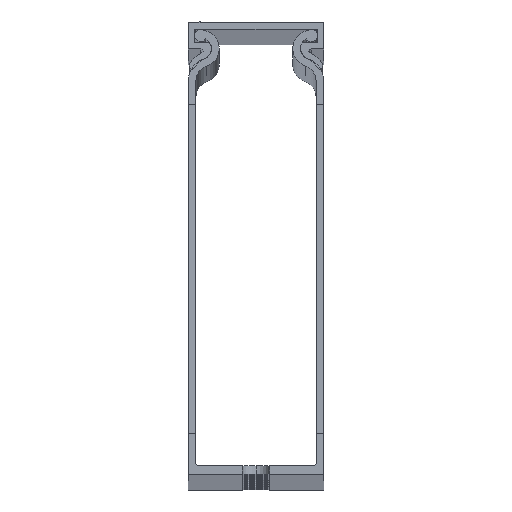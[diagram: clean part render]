
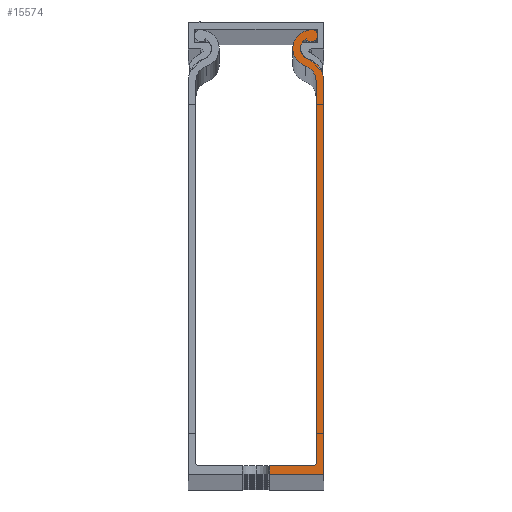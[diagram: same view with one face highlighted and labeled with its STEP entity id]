
A CAD part, top view. The second image highlights one B-rep face of the part: STEP entity #15574.
In plain terms, the highlighted planar face has unit normal (0, 0, 1).
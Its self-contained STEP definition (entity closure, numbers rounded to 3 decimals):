
#107 = DIRECTION ( 'NONE',  ( 1., 0., 0. ) ) ;
#1087 = VERTEX_POINT ( 'NONE', #20287 ) ;
#1310 = ORIENTED_EDGE ( 'NONE', *, *, #4172, .T. ) ;
#1311 = CARTESIAN_POINT ( 'NONE',  ( 2580.655, 1291.356, 2000. ) ) ;
#2649 = VERTEX_POINT ( 'NONE', #41002 ) ;
#3701 = CARTESIAN_POINT ( 'NONE',  ( 2581.207, 1199.456, 2000. ) ) ;
#4172 = EDGE_CURVE ( 'NONE', #21268, #44973, #48213, .T. ) ;
#4322 = DIRECTION ( 'NONE',  ( 1., 0., 0. ) ) ;
#4757 = ORIENTED_EDGE ( 'NONE', *, *, #45506, .F. ) ;
#5053 = DIRECTION ( 'NONE',  ( 1., 0., 0. ) ) ;
#5370 = CIRCLE ( 'NONE', #44691, 0.5 ) ;
#6463 = DIRECTION ( 'NONE',  ( -1., 0., 0. ) ) ;
#6609 = AXIS2_PLACEMENT_3D ( 'NONE', #39220, #27019, #47664 ) ;
#6674 = CIRCLE ( 'NONE', #24315, 5.1 ) ;
#6701 = CARTESIAN_POINT ( 'NONE',  ( 2568.407, 1197.056, 2000. ) ) ;
#7034 = EDGE_CURVE ( 'NONE', #10014, #1087, #25478, .T. ) ;
#7408 = VERTEX_POINT ( 'NONE', #26641 ) ;
#7893 = ORIENTED_EDGE ( 'NONE', *, *, #15798, .T. ) ;
#8924 = CARTESIAN_POINT ( 'NONE',  ( 2578.307, 1284.233, 2000. ) ) ;
#9567 = VECTOR ( 'NONE', #6463, 1000. ) ;
#9814 = CARTESIAN_POINT ( 'NONE',  ( 2579.372, 1287.462, 2000. ) ) ;
#10014 = VERTEX_POINT ( 'NONE', #12698 ) ;
#10086 = CARTESIAN_POINT ( 'NONE',  ( 2568.407, 1198.956, 2000. ) ) ;
#10142 = FACE_OUTER_BOUND ( 'NONE', #45619, .T. ) ;
#10391 = EDGE_CURVE ( 'NONE', #44973, #40023, #35701, .T. ) ;
#10923 = DIRECTION ( 'NONE',  ( 0., 1., 0. ) ) ;
#11049 = DIRECTION ( 'NONE',  ( 1., 0., 0. ) ) ;
#11050 = EDGE_CURVE ( 'NONE', #47580, #2649, #15089, .T. ) ;
#11345 = CARTESIAN_POINT ( 'NONE',  ( 2581.707, 1199.456, 2000. ) ) ;
#12473 = CARTESIAN_POINT ( 'NONE',  ( 2580.655, 1291.356, 2000. ) ) ;
#12698 = CARTESIAN_POINT ( 'NONE',  ( 2579.904, 1289.077, 2000. ) ) ;
#12711 = DIRECTION ( 'NONE',  ( 0., 0., 1. ) ) ;
#14214 = EDGE_CURVE ( 'NONE', #7408, #52356, #44258, .T. ) ;
#15089 = LINE ( 'NONE', #6701, #18257 ) ;
#15574 = ADVANCED_FACE ( 'NONE', ( #10142 ), #51616, .T. ) ;
#15798 = EDGE_CURVE ( 'NONE', #1087, #43655, #42206, .T. ) ;
#16266 = DIRECTION ( 'NONE',  ( 0., 0., -1. ) ) ;
#16312 = LINE ( 'NONE', #24017, #52278 ) ;
#16387 = CARTESIAN_POINT ( 'NONE',  ( 2580.657, 1294.213, 2000. ) ) ;
#17813 = ORIENTED_EDGE ( 'NONE', *, *, #45586, .T. ) ;
#18150 = CARTESIAN_POINT ( 'NONE',  ( 2571.407, 1197.056, 2000. ) ) ;
#18257 = VECTOR ( 'NONE', #11049, 1000. ) ;
#18872 = CARTESIAN_POINT ( 'NONE',  ( 2581.707, 1284.203, 2000. ) ) ;
#19688 = DIRECTION ( 'NONE',  ( 0., 1., 0. ) ) ;
#20110 = CARTESIAN_POINT ( 'NONE',  ( 2581.707, 1284.203, 2000. ) ) ;
#20287 = CARTESIAN_POINT ( 'NONE',  ( 2578.255, 1291.356, 2000. ) ) ;
#20300 = CIRCLE ( 'NONE', #31517, 4.1 ) ;
#20380 = EDGE_CURVE ( 'NONE', #43655, #34046, #48306, .T. ) ;
#20418 = DIRECTION ( 'NONE',  ( 1., 0., 0. ) ) ;
#21268 = VERTEX_POINT ( 'NONE', #9814 ) ;
#21340 = VECTOR ( 'NONE', #10923, 1000. ) ;
#21423 = CARTESIAN_POINT ( 'NONE',  ( 2583.407, 1284.196, 2000. ) ) ;
#21517 = DIRECTION ( 'NONE',  ( 1., 0., 0. ) ) ;
#22040 = DIRECTION ( 'NONE',  ( 0., 0., 1. ) ) ;
#22270 = VERTEX_POINT ( 'NONE', #37320 ) ;
#22438 = ORIENTED_EDGE ( 'NONE', *, *, #50620, .T. ) ;
#23983 = AXIS2_PLACEMENT_3D ( 'NONE', #12473, #32585, #36714 ) ;
#24017 = CARTESIAN_POINT ( 'NONE',  ( 2571.407, 1284.233, 2000. ) ) ;
#24063 = DIRECTION ( 'NONE',  ( 1., 0., 0. ) ) ;
#24245 = AXIS2_PLACEMENT_3D ( 'NONE', #1311, #29865, #5053 ) ;
#24315 = AXIS2_PLACEMENT_3D ( 'NONE', #8924, #12711, #21517 ) ;
#24919 = ORIENTED_EDGE ( 'NONE', *, *, #10391, .T. ) ;
#25458 = VECTOR ( 'NONE', #43979, 1000. ) ;
#25478 = CIRCLE ( 'NONE', #49882, 2.4 ) ;
#26634 = EDGE_CURVE ( 'NONE', #22270, #21268, #20300, .T. ) ;
#26641 = CARTESIAN_POINT ( 'NONE',  ( 2581.207, 1198.956, 2000. ) ) ;
#27019 = DIRECTION ( 'NONE',  ( 0., 0., 1. ) ) ;
#27108 = VERTEX_POINT ( 'NONE', #21423 ) ;
#28530 = CIRCLE ( 'NONE', #23983, 4.1 ) ;
#28592 = ORIENTED_EDGE ( 'NONE', *, *, #20380, .T. ) ;
#29865 = DIRECTION ( 'NONE',  ( 0., 0., -1. ) ) ;
#30877 = CARTESIAN_POINT ( 'NONE',  ( 2579.527, 1293.474, 2000. ) ) ;
#31517 = AXIS2_PLACEMENT_3D ( 'NONE', #46607, #22040, #34736 ) ;
#32498 = ORIENTED_EDGE ( 'NONE', *, *, #7034, .T. ) ;
#32585 = DIRECTION ( 'NONE',  ( 0., 0., 1. ) ) ;
#32994 = ORIENTED_EDGE ( 'NONE', *, *, #11050, .T. ) ;
#33137 = CARTESIAN_POINT ( 'NONE',  ( 2580.029, 1295.408, 2000. ) ) ;
#33916 = EDGE_CURVE ( 'NONE', #40023, #7408, #5370, .T. ) ;
#34046 = VERTEX_POINT ( 'NONE', #33137 ) ;
#34736 = DIRECTION ( 'NONE',  ( 1., 0., 0. ) ) ;
#35701 = LINE ( 'NONE', #18872, #25458 ) ;
#36714 = DIRECTION ( 'NONE',  ( 1., 0., 0. ) ) ;
#36729 = CARTESIAN_POINT ( 'NONE',  ( 2580.655, 1291.356, 2000. ) ) ;
#37320 = CARTESIAN_POINT ( 'NONE',  ( 2576.555, 1291.356, 2000. ) ) ;
#38250 = ORIENTED_EDGE ( 'NONE', *, *, #33916, .T. ) ;
#39220 = CARTESIAN_POINT ( 'NONE',  ( 2558.507, 1284.233, 2000. ) ) ;
#39826 = CARTESIAN_POINT ( 'NONE',  ( 2583.407, 1197.056, 2000. ) ) ;
#40023 = VERTEX_POINT ( 'NONE', #11345 ) ;
#40337 = ORIENTED_EDGE ( 'NONE', *, *, #45147, .T. ) ;
#41002 = CARTESIAN_POINT ( 'NONE',  ( 2583.407, 1197.056, 2000. ) ) ;
#41052 = DIRECTION ( 'NONE',  ( 0., 0., -1. ) ) ;
#41073 = DIRECTION ( 'NONE',  ( 0., 0., -1. ) ) ;
#42206 = CIRCLE ( 'NONE', #24245, 2.4 ) ;
#43590 = AXIS2_PLACEMENT_3D ( 'NONE', #52949, #41073, #24063 ) ;
#43655 = VERTEX_POINT ( 'NONE', #30877 ) ;
#43979 = DIRECTION ( 'NONE',  ( 0., -1., 0. ) ) ;
#44258 = LINE ( 'NONE', #10086, #9567 ) ;
#44691 = AXIS2_PLACEMENT_3D ( 'NONE', #3701, #41052, #107 ) ;
#44973 = VERTEX_POINT ( 'NONE', #20110 ) ;
#45122 = DIRECTION ( 'NONE',  ( 0., 0., 1. ) ) ;
#45147 = EDGE_CURVE ( 'NONE', #27108, #10014, #6674, .T. ) ;
#45506 = EDGE_CURVE ( 'NONE', #47580, #52356, #16312, .T. ) ;
#45586 = EDGE_CURVE ( 'NONE', #34046, #22270, #28530, .T. ) ;
#45619 = EDGE_LOOP ( 'NONE', ( #4757, #32994, #22438, #40337, #32498, #7893, #28592, #17813, #47447, #1310, #24919, #38250, #50388 ) ) ;
#46607 = CARTESIAN_POINT ( 'NONE',  ( 2580.655, 1291.356, 2000. ) ) ;
#47052 = LINE ( 'NONE', #39826, #21340 ) ;
#47447 = ORIENTED_EDGE ( 'NONE', *, *, #26634, .T. ) ;
#47580 = VERTEX_POINT ( 'NONE', #18150 ) ;
#47664 = DIRECTION ( 'NONE',  ( 1., 0., 0. ) ) ;
#47770 = AXIS2_PLACEMENT_3D ( 'NONE', #16387, #45122, #4322 ) ;
#48213 = CIRCLE ( 'NONE', #43590, 3.4 ) ;
#48306 = CIRCLE ( 'NONE', #47770, 1.35 ) ;
#48937 = CARTESIAN_POINT ( 'NONE',  ( 2571.407, 1198.956, 2000. ) ) ;
#49882 = AXIS2_PLACEMENT_3D ( 'NONE', #36729, #16266, #20418 ) ;
#50388 = ORIENTED_EDGE ( 'NONE', *, *, #14214, .T. ) ;
#50620 = EDGE_CURVE ( 'NONE', #2649, #27108, #47052, .T. ) ;
#51616 = PLANE ( 'NONE',  #6609 ) ;
#52278 = VECTOR ( 'NONE', #19688, 1000. ) ;
#52356 = VERTEX_POINT ( 'NONE', #48937 ) ;
#52949 = CARTESIAN_POINT ( 'NONE',  ( 2578.307, 1284.233, 2000. ) ) ;
